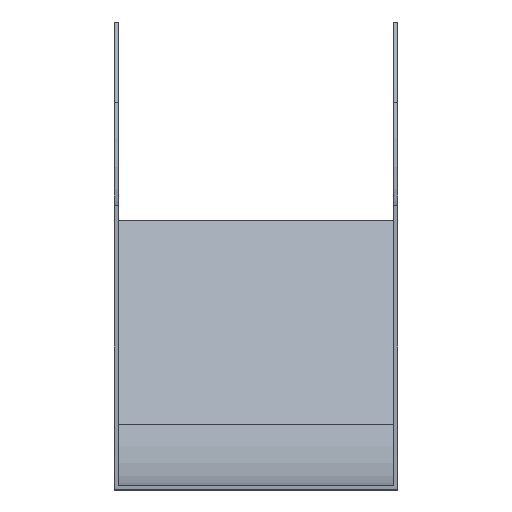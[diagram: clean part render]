
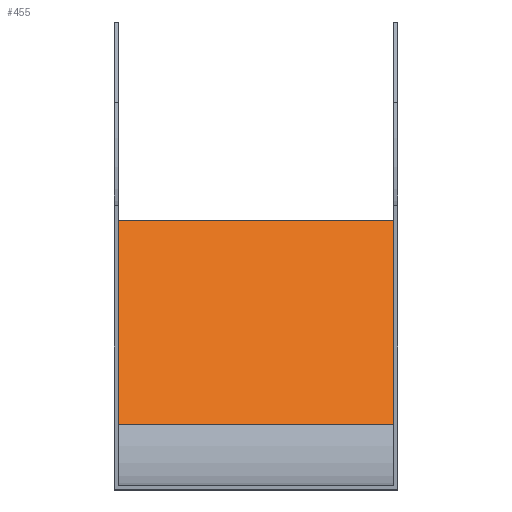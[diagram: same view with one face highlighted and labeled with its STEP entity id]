
A CAD part, top view. The second image highlights one B-rep face of the part: STEP entity #455.
In plain terms, the highlighted planar face has unit normal (0, 0.707, 0.707).
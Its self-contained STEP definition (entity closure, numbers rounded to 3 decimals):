
#18 = CARTESIAN_POINT ( 'NONE',  ( 50., -4.754, -226.323 ) ) ;
#34 = VERTEX_POINT ( 'NONE', #1058 ) ;
#49 = LINE ( 'NONE', #542, #1316 ) ;
#70 = CARTESIAN_POINT ( 'NONE',  ( 50., -76.972, -154.104 ) ) ;
#82 = VECTOR ( 'NONE', #289, 1000. ) ;
#114 = VERTEX_POINT ( 'NONE', #537 ) ;
#144 = PLANE ( 'NONE',  #611 ) ;
#257 = VERTEX_POINT ( 'NONE', #1374 ) ;
#263 = FACE_OUTER_BOUND ( 'NONE', #980, .T. ) ;
#289 = DIRECTION ( 'NONE',  ( 0., 0.707, -0.707 ) ) ;
#374 = ORIENTED_EDGE ( 'NONE', *, *, #776, .F. ) ;
#455 = ADVANCED_FACE ( 'NONE', ( #263 ), #144, .T. ) ;
#537 = CARTESIAN_POINT ( 'NONE',  ( 48.5, -76.972, -154.104 ) ) ;
#542 = CARTESIAN_POINT ( 'NONE',  ( -48.5, -4.754, -226.323 ) ) ;
#550 = ORIENTED_EDGE ( 'NONE', *, *, #988, .T. ) ;
#559 = DIRECTION ( 'NONE',  ( 0., 0.707, -0.707 ) ) ;
#611 = AXIS2_PLACEMENT_3D ( 'NONE', #18, #657, #1472 ) ;
#657 = DIRECTION ( 'NONE',  ( 0., 0.707, 0.707 ) ) ;
#776 = EDGE_CURVE ( 'NONE', #34, #1647, #49, .T. ) ;
#789 = EDGE_CURVE ( 'NONE', #114, #257, #933, .T. ) ;
#797 = DIRECTION ( 'NONE',  ( -1., 0., 0. ) ) ;
#800 = ORIENTED_EDGE ( 'NONE', *, *, #820, .F. ) ;
#820 = EDGE_CURVE ( 'NONE', #114, #34, #1342, .T. ) ;
#933 = LINE ( 'NONE', #1314, #82 ) ;
#976 = CARTESIAN_POINT ( 'NONE',  ( 50., -4.754, -226.323 ) ) ;
#980 = EDGE_LOOP ( 'NONE', ( #374, #800, #1143, #550 ) ) ;
#988 = EDGE_CURVE ( 'NONE', #257, #1647, #1105, .T. ) ;
#1058 = CARTESIAN_POINT ( 'NONE',  ( -48.5, -76.972, -154.104 ) ) ;
#1105 = LINE ( 'NONE', #976, #1318 ) ;
#1143 = ORIENTED_EDGE ( 'NONE', *, *, #789, .T. ) ;
#1292 = VECTOR ( 'NONE', #797, 1000. ) ;
#1314 = CARTESIAN_POINT ( 'NONE',  ( 48.5, -4.754, -226.323 ) ) ;
#1316 = VECTOR ( 'NONE', #559, 1000. ) ;
#1318 = VECTOR ( 'NONE', #1508, 1000. ) ;
#1342 = LINE ( 'NONE', #70, #1292 ) ;
#1374 = CARTESIAN_POINT ( 'NONE',  ( 48.5, -4.754, -226.323 ) ) ;
#1472 = DIRECTION ( 'NONE',  ( 0., -0.707, 0.707 ) ) ;
#1508 = DIRECTION ( 'NONE',  ( -1., 0., 0. ) ) ;
#1601 = CARTESIAN_POINT ( 'NONE',  ( -48.5, -4.754, -226.323 ) ) ;
#1647 = VERTEX_POINT ( 'NONE', #1601 ) ;
